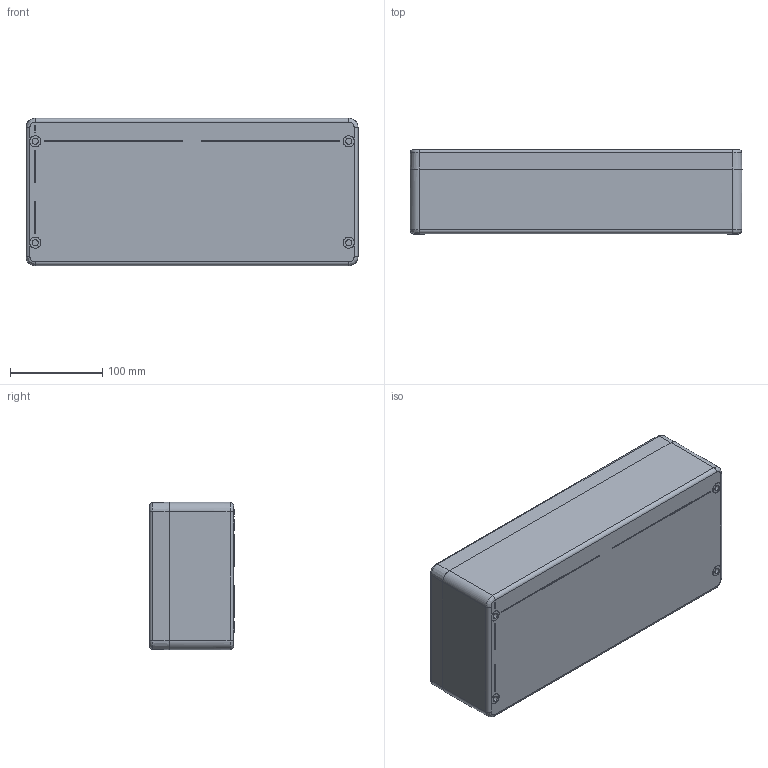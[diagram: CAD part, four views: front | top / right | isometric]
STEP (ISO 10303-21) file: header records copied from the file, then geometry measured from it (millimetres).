
FILE_DESCRIPTION((''),'2;1');
FILE_NAME('4320000000_ASM','2023-01-03T10:46:04',('silke.otte'),(''),'CREO PARAMETRIC BY PTC INC, 2022124','CREO PARAMETRIC BY PTC INC, 2022124','');
FILE_SCHEMA(('AUTOMOTIVE_DESIGN { 1 0 10303 214 1 1 1 1 }'));
Length unit declared in the file: millimetre
Products named in the file (10): 9331009000; 9502218000; 9502217000; 9331009000_ASM; 9332009000; CP-DICHTUNG_45; 9614003900_ASM; 9262006000; 9261027000; 4320000000_ASM
Assembly tree (23 placements, depth 3):
  4320000000_ASM
    9331009000_ASM
      9331009000
      9502218000  x6
      9502217000  x4
    9614003900_ASM
      9332009000
      CP-DICHTUNG_45
    9262006000  x4
    9261027000  x4
Bounding box: 360 x 91.5 x 160 mm (x, y, z)
Volume: 1256945.5 mm3; surface area: 436646.1 mm2
Topology: 21 solids, 35 shells, 2226 faces, 6041 edges, 3906 vertices
Faces by surface type: plane 1606, cone 404, cylinder 166, bspline 26, torus 24
Entity records: 37677 total; most frequent: CARTESIAN_POINT 7065, DIRECTION 4281, ORIENTED_EDGE 3820, PRESENTATION_STYLE_ASSIGNMENT 2196, STYLED_ITEM 2185, CURVE_STYLE 2176, EDGE_CURVE 1916, AXIS2_PLACEMENT_3D 1536
